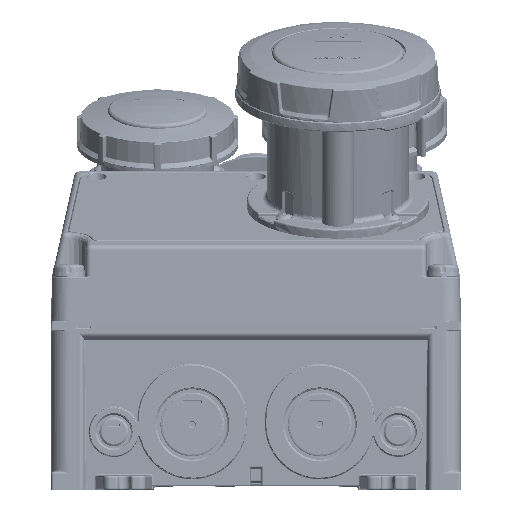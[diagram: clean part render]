
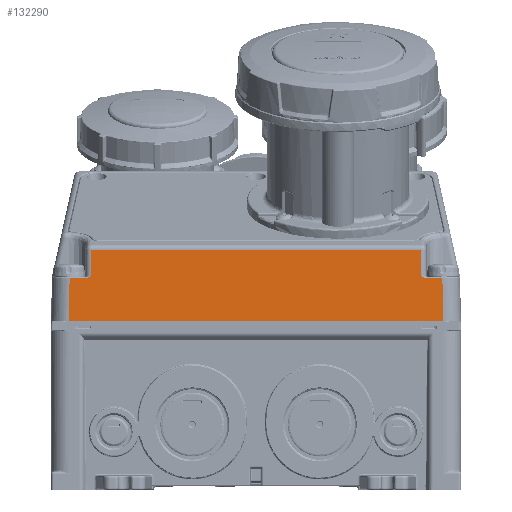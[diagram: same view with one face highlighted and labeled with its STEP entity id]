
A CAD part, front view. The second image highlights one B-rep face of the part: STEP entity #132290.
In plain terms, the highlighted planar face has unit normal (0, -1, 0.018).
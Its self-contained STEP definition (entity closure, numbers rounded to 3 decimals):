
#957=CARTESIAN_POINT('',(203.146,0.445,117.441));
#983=DIRECTION('',(-1.,0.,0.));
#984=VECTOR('',#983,9.246);
#985=CARTESIAN_POINT('',(214.824,0.428,116.459));
#986=LINE('62285',#985,#984);
#987=CARTESIAN_POINT('',(205.578,0.428,116.459));
#999=DIRECTION('',(0.017,-0.017,-1.));
#1000=VECTOR('',#999,23.916);
#1001=CARTESIAN_POINT('',(214.824,0.428,116.459));
#1002=LINE('62286',#1001,#1000);
#1003=DIRECTION('',(-1.,0.,0.));
#1004=VECTOR('',#1003,205.483);
#1005=CARTESIAN_POINT('',(215.241,0.01,92.55));
#1006=LINE('62287',#1005,#1004);
#1007=DIRECTION('',(0.017,0.017,1.));
#1008=VECTOR('',#1007,23.916);
#1009=CARTESIAN_POINT('',(9.758,0.01,92.55));
#1010=LINE('62288',#1009,#1008);
#1011=CARTESIAN_POINT('',(19.422,0.428,116.459));
#1012=CARTESIAN_POINT('',(19.48,0.428,116.459));
#1013=CARTESIAN_POINT('',(19.601,0.428,116.464));
#1014=CARTESIAN_POINT('',(19.796,0.428,116.487));
#1015=CARTESIAN_POINT('',(20.009,0.429,116.531));
#1016=CARTESIAN_POINT('',(20.243,0.43,116.597));
#1017=CARTESIAN_POINT('',(20.502,0.432,116.692));
#1018=CARTESIAN_POINT('',(20.792,0.434,116.821));
#1019=CARTESIAN_POINT('',(21.112,0.437,116.988));
#1020=CARTESIAN_POINT('',(21.461,0.441,117.194));
#1021=CARTESIAN_POINT('',(21.719,0.443,117.356));
#1022=CARTESIAN_POINT('',(21.854,0.445,117.441));
#1024=DIRECTION('',(0.009,0.017,1.));
#1025=VECTOR('',#1024,14.45);
#1026=CARTESIAN_POINT('',(21.854,0.445,117.441));
#1027=LINE('62291',#1026,#1025);
#1028=DIRECTION('',(0.009,-0.017,-1.));
#1029=VECTOR('',#1028,14.45);
#1030=CARTESIAN_POINT('',(203.02,0.697,131.888));
#1031=LINE('62280',#1030,#1029);
#1032=CARTESIAN_POINT('',(203.146,0.445,117.441));
#1033=CARTESIAN_POINT('',(203.281,0.443,117.356));
#1034=CARTESIAN_POINT('',(203.539,0.441,117.194));
#1035=CARTESIAN_POINT('',(203.888,0.437,116.989));
#1036=CARTESIAN_POINT('',(204.207,0.434,116.822));
#1037=CARTESIAN_POINT('',(204.497,0.432,116.692));
#1038=CARTESIAN_POINT('',(204.757,0.43,116.597));
#1039=CARTESIAN_POINT('',(204.991,0.429,116.531));
#1040=CARTESIAN_POINT('',(205.204,0.428,116.487));
#1041=CARTESIAN_POINT('',(205.399,0.428,116.464));
#1042=CARTESIAN_POINT('',(205.52,0.428,116.459));
#1043=CARTESIAN_POINT('',(205.578,0.428,116.459));
#1057=CARTESIAN_POINT('',(214.824,0.428,116.459));
#2344=DIRECTION('',(-1.,0.,0.));
#2345=VECTOR('',#2344,181.04);
#2346=CARTESIAN_POINT('',(203.02,0.697,131.888));
#2347=LINE('62292',#2346,#2345);
#2407=DIRECTION('',(-1.,0.,0.));
#2408=VECTOR('',#2407,9.246);
#2409=CARTESIAN_POINT('',(19.422,0.428,116.459));
#2410=LINE('62289',#2409,#2408);
#111386=VERTEX_POINT('',#1057);
#111422=VERTEX_POINT('',#957);
#111423=CARTESIAN_POINT('',(203.02,0.697,
131.888));
#111424=VERTEX_POINT('',#111423);
#111425=VERTEX_POINT('',#987);
#111426=CARTESIAN_POINT('',(215.241,0.01,
92.55));
#111427=VERTEX_POINT('',#111426);
#111428=CARTESIAN_POINT('',(9.758,0.01,
92.55));
#111429=VERTEX_POINT('',#111428);
#111430=CARTESIAN_POINT('',(10.176,0.428,
116.459));
#111431=VERTEX_POINT('',#111430);
#111432=CARTESIAN_POINT('',(19.422,0.428,
116.459));
#111433=VERTEX_POINT('',#111432);
#111434=VERTEX_POINT('',#1022);
#111435=CARTESIAN_POINT('',(21.98,0.697,
131.888));
#111436=VERTEX_POINT('',#111435);
#132266=CARTESIAN_POINT('',(112.5,0.354,112.219));
#132267=DIRECTION('',(0.,1.,-0.017));
#132268=DIRECTION('',(0.,-0.017,-1.));
#132269=AXIS2_PLACEMENT_3D('',#132266,#132267,#132268);
#132270=PLANE('80506',#132269);
#132272=ORIENTED_EDGE('62286',*,*,#132271,.T.);
#132274=ORIENTED_EDGE('62287',*,*,#132273,.T.);
#132276=ORIENTED_EDGE('62288',*,*,#132275,.T.);
#132278=ORIENTED_EDGE('62289',*,*,#132277,.F.);
#132280=ORIENTED_EDGE('62290',*,*,#132279,.T.);
#132282=ORIENTED_EDGE('62291',*,*,#132281,.T.);
#132284=ORIENTED_EDGE('62292',*,*,#132283,.F.);
#132285=ORIENTED_EDGE('62280',*,*,#132106,.T.);
#132286=ORIENTED_EDGE('62284',*,*,#132233,.T.);
#132287=ORIENTED_EDGE('62285',*,*,#132252,.F.);
#132288=EDGE_LOOP('80506',(#132272,#132274,#132276,#132278,#132280,#132282,
#132284,#132285,#132286,#132287));
#132289=FACE_OUTER_BOUND('80506',#132288,.F.);
#1023=B_SPLINE_CURVE_WITH_KNOTS('62290',3,(#1011,#1012,#1013,#1014,#1015,#1016,
#1017,#1018,#1019,#1020,#1021,#1022),.UNSPECIFIED.,.F.,.F.,(4,1,1,1,1,1,1,1,1,
4),(0.,0.111,0.222,0.333,
0.444,0.556,0.667,0.778,
0.889,1.),.UNSPECIFIED.);
#1044=B_SPLINE_CURVE_WITH_KNOTS('62284',3,(#1032,#1033,#1034,#1035,#1036,#1037,
#1038,#1039,#1040,#1041,#1042,#1043),.UNSPECIFIED.,.F.,.F.,(4,1,1,1,1,1,1,1,1,
4),(0.,0.111,0.222,0.333,
0.444,0.556,0.667,0.778,
0.889,1.),.UNSPECIFIED.);
#132106=EDGE_CURVE('62280',#111424,#111422,#1031,.T.);
#132233=EDGE_CURVE('62284',#111422,#111425,#1044,.T.);
#132252=EDGE_CURVE('62285',#111386,#111425,#986,.T.);
#132271=EDGE_CURVE('62286',#111386,#111427,#1002,.T.);
#132273=EDGE_CURVE('62287',#111427,#111429,#1006,.T.);
#132275=EDGE_CURVE('62288',#111429,#111431,#1010,.T.);
#132277=EDGE_CURVE('62289',#111433,#111431,#2410,.T.);
#132279=EDGE_CURVE('62290',#111433,#111434,#1023,.T.);
#132281=EDGE_CURVE('62291',#111434,#111436,#1027,.T.);
#132283=EDGE_CURVE('62292',#111424,#111436,#2347,.T.);
#132290=ADVANCED_FACE('80506',(#132289),#132270,.F.);
